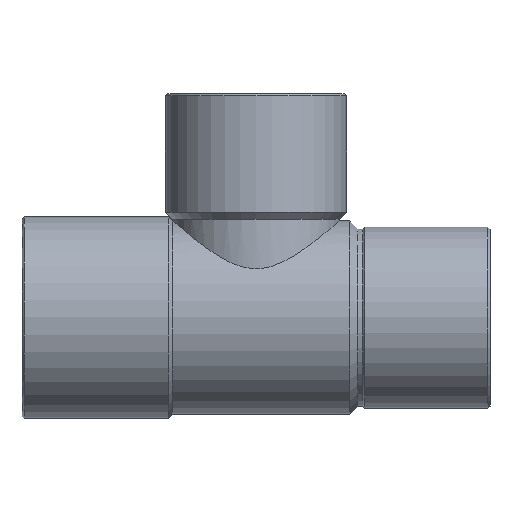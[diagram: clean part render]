
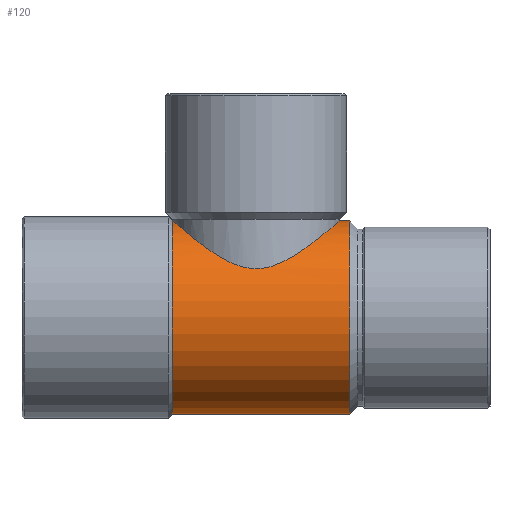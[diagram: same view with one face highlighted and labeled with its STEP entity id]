
A CAD part, top view. The second image highlights one B-rep face of the part: STEP entity #120.
In plain terms, the highlighted cylindrical face has radius 9.5 mm (diameter 19 mm), a partial arc.
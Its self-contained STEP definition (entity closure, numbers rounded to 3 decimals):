
#44=CARTESIAN_POINT('',(0.,0.,0.0));
#45=DIRECTION('',(1.0,0.,0.0));
#46=DIRECTION('',(0.0,1.0,0.0));
#47=AXIS2_PLACEMENT_3D('',#44,#45,#46);
#48=CYLINDRICAL_SURFACE('',#47,9.5);
#49=CARTESIAN_POINT('',(-8.23,9.5,0.));
#50=VERTEX_POINT('',#49);
#51=CARTESIAN_POINT('',(-8.2,9.5,0.));
#52=VERTEX_POINT('',#51);
#53=CARTESIAN_POINT('',(-8.23,9.5,0.));
#54=DIRECTION('',(1.0,0.0,0.0));
#55=VECTOR('',#54,0.03);
#56=LINE('',#53,#55);
#57=EDGE_CURVE('',#50,#52,#56,.T.);
#58=ORIENTED_EDGE('',*,*,#57,.F.);
#59=CARTESIAN_POINT('',(-8.23,-9.5,0.));
#60=VERTEX_POINT('',#59);
#61=CARTESIAN_POINT('',(-8.23,0.,0.0));
#62=DIRECTION('',(1.0,0.0,0.0));
#63=DIRECTION('',(0.0,1.0,0.0));
#64=AXIS2_PLACEMENT_3D('',#61,#62,#63);
#65=CIRCLE('',#64,9.5);
#66=EDGE_CURVE('',#50,#60,#65,.T.);
#67=ORIENTED_EDGE('',*,*,#66,.T.);
#68=CARTESIAN_POINT('',(9.2,-9.5,0.));
#69=VERTEX_POINT('',#68);
#70=CARTESIAN_POINT('',(9.2,-9.5,0.));
#71=DIRECTION('',(-1.0,0.0,0.0));
#72=VECTOR('',#71,17.43);
#73=LINE('',#70,#72);
#74=EDGE_CURVE('',#69,#60,#73,.T.);
#75=ORIENTED_EDGE('',*,*,#74,.F.);
#76=CARTESIAN_POINT('',(9.2,9.5,0.0));
#77=VERTEX_POINT('',#76);
#78=CARTESIAN_POINT('',(9.2,0.,0.0));
#79=DIRECTION('',(-1.0,0.0,0.0));
#80=DIRECTION('',(0.0,1.0,0.0));
#81=AXIS2_PLACEMENT_3D('',#78,#79,#80);
#82=CIRCLE('',#81,9.5);
#83=EDGE_CURVE('',#69,#77,#82,.T.);
#84=ORIENTED_EDGE('',*,*,#83,.T.);
#85=CARTESIAN_POINT('',(8.2,9.5,0.));
#86=VERTEX_POINT('',#85);
#87=CARTESIAN_POINT('',(8.2,9.5,0.));
#88=DIRECTION('',(1.0,0.0,0.0));
#89=VECTOR('',#88,1.0);
#90=LINE('',#87,#89);
#91=EDGE_CURVE('',#86,#77,#90,.T.);
#92=ORIENTED_EDGE('',*,*,#91,.F.);
#93=CARTESIAN_POINT('',(8.2,9.5,0.));
#94=CARTESIAN_POINT('',(8.2,9.5,1.098));
#95=CARTESIAN_POINT('',(7.967,9.297,2.228));
#96=CARTESIAN_POINT('',(7.106,8.57,4.236));
#97=CARTESIAN_POINT('',(6.48,8.051,5.117));
#98=CARTESIAN_POINT('',(5.079,6.971,6.517));
#99=CARTESIAN_POINT('',(4.195,6.32,7.126));
#100=CARTESIAN_POINT('',(2.724,5.501,7.753));
#101=CARTESIAN_POINT('',(2.21,5.257,7.916));
#102=CARTESIAN_POINT('',(1.138,4.904,8.139));
#103=CARTESIAN_POINT('',(0.579,4.797,8.2));
#104=CARTESIAN_POINT('',(-0.579,4.797,8.2));
#105=CARTESIAN_POINT('',(-1.138,4.904,8.139));
#106=CARTESIAN_POINT('',(-2.21,5.257,7.916));
#107=CARTESIAN_POINT('',(-2.724,5.501,7.753));
#108=CARTESIAN_POINT('',(-4.195,6.32,7.126));
#109=CARTESIAN_POINT('',(-5.079,6.971,6.517));
#110=CARTESIAN_POINT('',(-6.48,8.051,5.117));
#111=CARTESIAN_POINT('',(-7.106,8.57,4.236));
#112=CARTESIAN_POINT('',(-7.967,9.297,2.228));
#113=CARTESIAN_POINT('',(-8.2,9.5,1.098));
#114=CARTESIAN_POINT('',(-8.2,9.5,0.));
#115=B_SPLINE_CURVE_WITH_KNOTS('',3,(#93,#94,#95,#96,#97,#98,#99,#100,#101,#102,#103,#104,#105,#106,#107,#108,#109,#110,#111,#112,#113,#114),.UNSPECIFIED.,.F.,.U.,(4,2,2,2,2,2,2,2,2,2,4),(1.354,1.683,2.013,2.36,2.534,2.708,2.881,3.055,3.402,3.732,4.061),.UNSPECIFIED.);
#116=EDGE_CURVE('',#86,#52,#115,.T.);
#117=ORIENTED_EDGE('',*,*,#116,.T.);
#118=EDGE_LOOP('',(#58,#67,#75,#84,#92,#117));
#119=FACE_OUTER_BOUND('',#118,.T.);
#120=ADVANCED_FACE('',(#119),#48,.T.);
